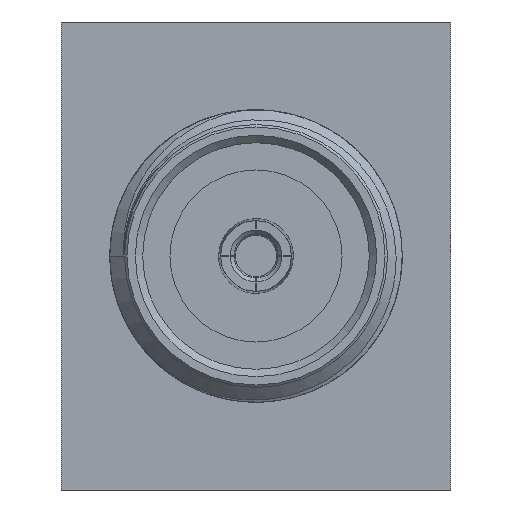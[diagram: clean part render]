
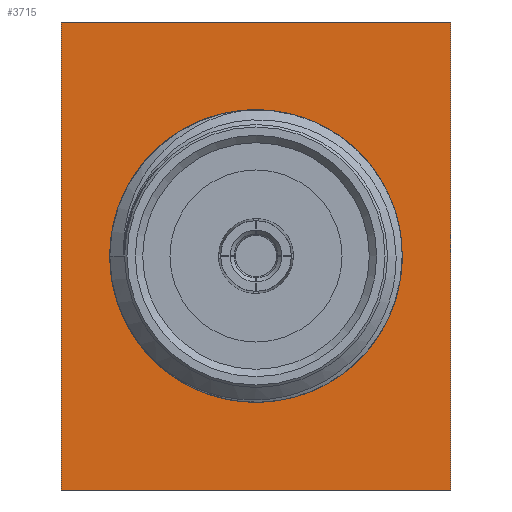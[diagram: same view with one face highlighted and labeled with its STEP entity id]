
A CAD part, left-side view. The second image highlights one B-rep face of the part: STEP entity #3715.
In plain terms, the highlighted planar face has unit normal (-1, 0, 0).
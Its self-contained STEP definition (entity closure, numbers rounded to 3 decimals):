
#96 = FACE_OUTER_BOUND ( 'NONE', #386, .T. ) ;
#145 = FACE_BOUND ( 'NONE', #612, .T. ) ;
#150 = CARTESIAN_POINT ( 'NONE',  ( 9.3, 0., 0. ) ) ;
#386 = EDGE_LOOP ( 'NONE', ( #1909, #1662, #2884, #4132 ) ) ;
#481 = CARTESIAN_POINT ( 'NONE',  ( 9.3, 3.96, 4.76 ) ) ;
#612 = EDGE_LOOP ( 'NONE', ( #4096 ) ) ;
#613 = VECTOR ( 'NONE', #1825, 1000. ) ;
#641 = AXIS2_PLACEMENT_3D ( 'NONE', #3422, #2404, #3379 ) ;
#668 = VECTOR ( 'NONE', #1250, 1000. ) ;
#731 = VERTEX_POINT ( 'NONE', #4068 ) ;
#796 = EDGE_CURVE ( 'NONE', #2360, #2360, #1270, .T. ) ;
#906 = LINE ( 'NONE', #2834, #2175 ) ;
#912 = AXIS2_PLACEMENT_3D ( 'NONE', #150, #4139, #1430 ) ;
#1250 = DIRECTION ( 'NONE',  ( 0., 0., 1. ) ) ;
#1270 = CIRCLE ( 'NONE', #912, 2.675 ) ;
#1430 = DIRECTION ( 'NONE',  ( 0., 1., 0. ) ) ;
#1471 = CARTESIAN_POINT ( 'NONE',  ( 9.3, 3.96, 4.76 ) ) ;
#1492 = PLANE ( 'NONE',  #641 ) ;
#1521 = CARTESIAN_POINT ( 'NONE',  ( 9.3, 3.96, -4.76 ) ) ;
#1525 = LINE ( 'NONE', #3820, #3296 ) ;
#1533 = VERTEX_POINT ( 'NONE', #1521 ) ;
#1589 = EDGE_CURVE ( 'NONE', #3429, #731, #2626, .T. ) ;
#1622 = CARTESIAN_POINT ( 'NONE',  ( 9.3, -3.96, -4.76 ) ) ;
#1662 = ORIENTED_EDGE ( 'NONE', *, *, #2546, .T. ) ;
#1684 = CARTESIAN_POINT ( 'NONE',  ( 9.3, 2.675, 0. ) ) ;
#1825 = DIRECTION ( 'NONE',  ( 0., 0., -1. ) ) ;
#1890 = VERTEX_POINT ( 'NONE', #1471 ) ;
#1909 = ORIENTED_EDGE ( 'NONE', *, *, #1589, .T. ) ;
#2153 = LINE ( 'NONE', #481, #613 ) ;
#2175 = VECTOR ( 'NONE', #2554, 1000. ) ;
#2360 = VERTEX_POINT ( 'NONE', #1684 ) ;
#2404 = DIRECTION ( 'NONE',  ( -1., 0., 0. ) ) ;
#2468 = EDGE_CURVE ( 'NONE', #1533, #3429, #1525, .T. ) ;
#2510 = DIRECTION ( 'NONE',  ( 0., -1., 0. ) ) ;
#2546 = EDGE_CURVE ( 'NONE', #731, #1890, #906, .T. ) ;
#2554 = DIRECTION ( 'NONE',  ( 0., 1., 0. ) ) ;
#2626 = LINE ( 'NONE', #1622, #668 ) ;
#2834 = CARTESIAN_POINT ( 'NONE',  ( 9.3, -3.96, 4.76 ) ) ;
#2884 = ORIENTED_EDGE ( 'NONE', *, *, #3368, .T. ) ;
#3241 = CARTESIAN_POINT ( 'NONE',  ( 9.3, -3.96, -4.76 ) ) ;
#3296 = VECTOR ( 'NONE', #2510, 1000. ) ;
#3368 = EDGE_CURVE ( 'NONE', #1890, #1533, #2153, .T. ) ;
#3379 = DIRECTION ( 'NONE',  ( 0., 0., 1. ) ) ;
#3422 = CARTESIAN_POINT ( 'NONE',  ( 9.3, 4.587, 0. ) ) ;
#3429 = VERTEX_POINT ( 'NONE', #3241 ) ;
#3715 = ADVANCED_FACE ( 'NONE', ( #96, #145 ), #1492, .T. ) ;
#3820 = CARTESIAN_POINT ( 'NONE',  ( 9.3, 3.96, -4.76 ) ) ;
#4068 = CARTESIAN_POINT ( 'NONE',  ( 9.3, -3.96, 4.76 ) ) ;
#4096 = ORIENTED_EDGE ( 'NONE', *, *, #796, .T. ) ;
#4132 = ORIENTED_EDGE ( 'NONE', *, *, #2468, .T. ) ;
#4139 = DIRECTION ( 'NONE',  ( 1., 0., 0. ) ) ;
